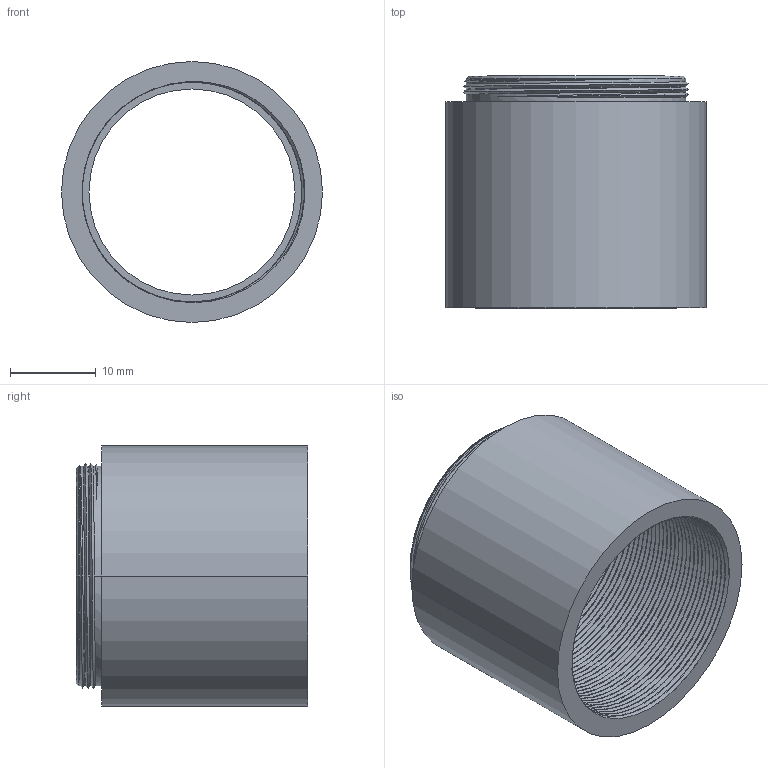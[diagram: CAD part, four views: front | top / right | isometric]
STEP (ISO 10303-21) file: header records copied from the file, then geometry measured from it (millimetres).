
FILE_DESCRIPTION((''),'2;1');
FILE_NAME('CSA-24','2020-10-29T',('Administrator'),(''),'CREO PARAMETRIC BY PTC INC, 2015290','CREO PARAMETRIC BY PTC INC, 2015290','');
FILE_SCHEMA(('CONFIG_CONTROL_DESIGN'));
Length unit declared in the file: millimetre
Products named in the file (1): CSA-24
Bounding box: 30.4 x 27 x 30.4 mm (x, y, z)
Volume: 5028.7 mm3; surface area: 6316.1 mm2
Topology: 1 solids, 1 shells, 117 faces, 323 edges, 211 vertices
Faces by surface type: cylinder 83, bspline 26, plane 6, cone 2
Entity records: 13659 total; most frequent: CARTESIAN_POINT 11076, ORIENTED_EDGE 646, DIRECTION 334, EDGE_CURVE 323, VERTEX_POINT 211, B_SPLINE_CURVE_WITH_KNOTS 192, EDGE_LOOP 122, FACE_OUTER_BOUND 117
